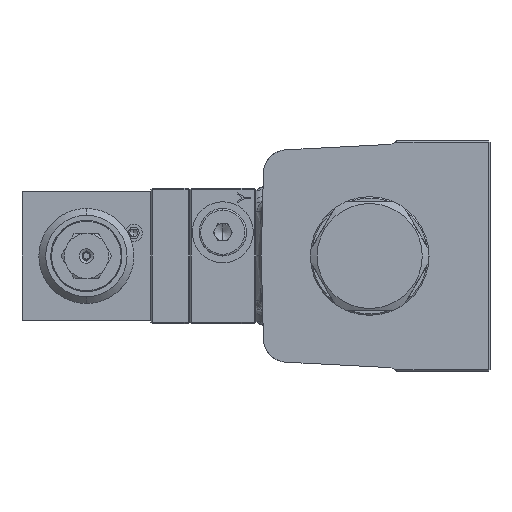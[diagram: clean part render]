
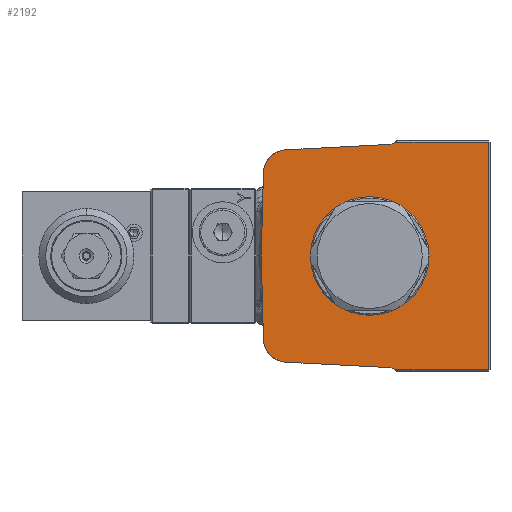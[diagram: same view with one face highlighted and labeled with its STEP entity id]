
A CAD part, left-side view. The second image highlights one B-rep face of the part: STEP entity #2192.
In plain terms, the highlighted planar face has unit normal (-1, 0, 0).
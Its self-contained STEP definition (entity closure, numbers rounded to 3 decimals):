
#162 = DIRECTION ( 'NONE',  ( 0., -0.999, -0.052 ) ) ;
#719 = CIRCLE ( 'NONE', #55664, 16. ) ;
#1984 = CARTESIAN_POINT ( 'NONE',  ( -46.6, 24.726, -31.337 ) ) ;
#2192 = ADVANCED_FACE ( 'NONE', ( #13976, #24550 ), #12619, .T. ) ;
#3393 = VECTOR ( 'NONE', #17945, 1000. ) ;
#3428 = CARTESIAN_POINT ( 'NONE',  ( -46.6, -7.444, 33.5 ) ) ;
#3738 = CIRCLE ( 'NONE', #30376, 7. ) ;
#3821 = VERTEX_POINT ( 'NONE', #3428 ) ;
#4105 = EDGE_CURVE ( 'NONE', #84405, #92950, #6211, .T. ) ;
#4370 = EDGE_CURVE ( 'NONE', #25922, #23741, #3738, .T. ) ;
#4702 = DIRECTION ( 'NONE',  ( -1., 0., 0. ) ) ;
#4703 = ORIENTED_EDGE ( 'NONE', *, *, #81297, .T. ) ;
#6211 = LINE ( 'NONE', #94565, #68467 ) ;
#7075 = CARTESIAN_POINT ( 'NONE',  ( -46.6, 31.358, 24.53 ) ) ;
#8248 = ORIENTED_EDGE ( 'NONE', *, *, #82497, .T. ) ;
#8603 = EDGE_CURVE ( 'NONE', #3821, #46115, #78114, .T. ) ;
#9000 = VECTOR ( 'NONE', #84197, 1000. ) ;
#10334 = CARTESIAN_POINT ( 'NONE',  ( -46.6, 31.978, -0.837 ) ) ;
#10485 = VERTEX_POINT ( 'NONE', #20733 ) ;
#10821 = CIRCLE ( 'NONE', #59866, 3. ) ;
#11976 = LINE ( 'NONE', #75063, #20207 ) ;
#12619 = PLANE ( 'NONE',  #45693 ) ;
#13046 = EDGE_LOOP ( 'NONE', ( #8248, #36009, #63451, #90885, #85467, #79858, #96741, #51884, #4703, #22587, #29799 ) ) ;
#13291 = CARTESIAN_POINT ( 'NONE',  ( -46.6, -5.85, -32.94 ) ) ;
#13976 = FACE_OUTER_BOUND ( 'NONE', #13046, .T. ) ;
#14640 = VERTEX_POINT ( 'NONE', #81256 ) ;
#17444 = AXIS2_PLACEMENT_3D ( 'NONE', #17909, #76946, #40502 ) ;
#17909 = CARTESIAN_POINT ( 'NONE',  ( -46.6, 24.36, 24.347 ) ) ;
#17945 = DIRECTION ( 'NONE',  ( 0., -0.026, -1. ) ) ;
#19871 = VECTOR ( 'NONE', #89886, 1000. ) ;
#19936 = DIRECTION ( 'NONE',  ( -1., 0., 0. ) ) ;
#20207 = VECTOR ( 'NONE', #162, 1000. ) ;
#20630 = CARTESIAN_POINT ( 'NONE',  ( -46.6, 24.726, 31.337 ) ) ;
#20733 = CARTESIAN_POINT ( 'NONE',  ( -46.6, 32., 0. ) ) ;
#21582 = EDGE_CURVE ( 'NONE', #72829, #14640, #719, .T. ) ;
#22195 = DIRECTION ( 'NONE',  ( 0., 1., 0. ) ) ;
#22572 = DIRECTION ( 'NONE',  ( 0., 0., 1. ) ) ;
#22587 = ORIENTED_EDGE ( 'NONE', *, *, #4370, .F. ) ;
#22590 = CARTESIAN_POINT ( 'NONE',  ( -46.6, -5.85, 32.94 ) ) ;
#23698 = LINE ( 'NONE', #67064, #36586 ) ;
#23741 = VERTEX_POINT ( 'NONE', #70139 ) ;
#24550 = FACE_BOUND ( 'NONE', #39076, .T. ) ;
#25922 = VERTEX_POINT ( 'NONE', #1984 ) ;
#28321 = AXIS2_PLACEMENT_3D ( 'NONE', #75001, #37302, #60214 ) ;
#29012 = DIRECTION ( 'NONE',  ( 0., 0., 1. ) ) ;
#29799 = ORIENTED_EDGE ( 'NONE', *, *, #82635, .T. ) ;
#30376 = AXIS2_PLACEMENT_3D ( 'NONE', #44525, #96644, #22572 ) ;
#32928 = EDGE_CURVE ( 'NONE', #86592, #84405, #73622, .T. ) ;
#34840 = CIRCLE ( 'NONE', #17444, 7. ) ;
#36009 = ORIENTED_EDGE ( 'NONE', *, *, #32928, .T. ) ;
#36366 = EDGE_CURVE ( 'NONE', #85317, #79113, #34840, .T. ) ;
#36586 = VECTOR ( 'NONE', #22195, 1000. ) ;
#37302 = DIRECTION ( 'NONE',  ( -1., 0., 0. ) ) ;
#39076 = EDGE_LOOP ( 'NONE', ( #60567, #69460 ) ) ;
#39675 = CARTESIAN_POINT ( 'NONE',  ( -46.6, -7.444, -33.5 ) ) ;
#39771 = LINE ( 'NONE', #10334, #3393 ) ;
#40502 = DIRECTION ( 'NONE',  ( 0., 0., 1. ) ) ;
#43854 = DIRECTION ( 'NONE',  ( 0., -1., 0. ) ) ;
#44525 = CARTESIAN_POINT ( 'NONE',  ( -46.6, 24.36, -24.347 ) ) ;
#45693 = AXIS2_PLACEMENT_3D ( 'NONE', #87083, #4702, #64753 ) ;
#46115 = VERTEX_POINT ( 'NONE', #22590 ) ;
#46504 = AXIS2_PLACEMENT_3D ( 'NONE', #89209, #51763, #51440 ) ;
#48399 = EDGE_CURVE ( 'NONE', #92950, #3821, #23698, .T. ) ;
#50013 = DIRECTION ( 'NONE',  ( 1., 0., 0. ) ) ;
#51440 = DIRECTION ( 'NONE',  ( 0., 0., 1. ) ) ;
#51763 = DIRECTION ( 'NONE',  ( 1., 0., 0. ) ) ;
#51884 = ORIENTED_EDGE ( 'NONE', *, *, #57241, .F. ) ;
#55513 = DIRECTION ( 'NONE',  ( 0., -0.026, 1. ) ) ;
#55664 = AXIS2_PLACEMENT_3D ( 'NONE', #58865, #19936, #43854 ) ;
#57241 = EDGE_CURVE ( 'NONE', #10485, #79113, #57898, .T. ) ;
#57898 = LINE ( 'NONE', #93929, #80235 ) ;
#58309 = VERTEX_POINT ( 'NONE', #13291 ) ;
#58670 = CARTESIAN_POINT ( 'NONE',  ( -46.6, 1.706, 32.544 ) ) ;
#58865 = CARTESIAN_POINT ( 'NONE',  ( -46.6, 0., 0. ) ) ;
#59866 = AXIS2_PLACEMENT_3D ( 'NONE', #64443, #50013, #94610 ) ;
#60214 = DIRECTION ( 'NONE',  ( 0., -1., 0. ) ) ;
#60283 = EDGE_CURVE ( 'NONE', #85317, #46115, #84376, .T. ) ;
#60567 = ORIENTED_EDGE ( 'NONE', *, *, #21582, .F. ) ;
#63451 = ORIENTED_EDGE ( 'NONE', *, *, #4105, .T. ) ;
#64443 = CARTESIAN_POINT ( 'NONE',  ( -46.6, -5.693, -35.936 ) ) ;
#64753 = DIRECTION ( 'NONE',  ( 0., 0., 1. ) ) ;
#67064 = CARTESIAN_POINT ( 'NONE',  ( -46.6, -35.5, 33.5 ) ) ;
#68467 = VECTOR ( 'NONE', #29012, 1000. ) ;
#69087 = CARTESIAN_POINT ( 'NONE',  ( -46.6, -35., -33.5 ) ) ;
#69460 = ORIENTED_EDGE ( 'NONE', *, *, #70955, .F. ) ;
#70139 = CARTESIAN_POINT ( 'NONE',  ( -46.6, 31.358, -24.53 ) ) ;
#70955 = EDGE_CURVE ( 'NONE', #14640, #72829, #80519, .T. ) ;
#71530 = CARTESIAN_POINT ( 'NONE',  ( -46.6, -16., 0. ) ) ;
#72829 = VERTEX_POINT ( 'NONE', #71530 ) ;
#73622 = LINE ( 'NONE', #76670, #9000 ) ;
#75001 = CARTESIAN_POINT ( 'NONE',  ( -46.6, 0., 0. ) ) ;
#75063 = CARTESIAN_POINT ( 'NONE',  ( -46.6, 1.706, -32.544 ) ) ;
#76670 = CARTESIAN_POINT ( 'NONE',  ( -46.6, -35.5, -33.5 ) ) ;
#76946 = DIRECTION ( 'NONE',  ( -1., 0., 0. ) ) ;
#78114 = CIRCLE ( 'NONE', #46504, 3. ) ;
#79113 = VERTEX_POINT ( 'NONE', #7075 ) ;
#79858 = ORIENTED_EDGE ( 'NONE', *, *, #60283, .F. ) ;
#80235 = VECTOR ( 'NONE', #55513, 1000. ) ;
#80519 = CIRCLE ( 'NONE', #28321, 16. ) ;
#81256 = CARTESIAN_POINT ( 'NONE',  ( -46.6, 16., 0. ) ) ;
#81297 = EDGE_CURVE ( 'NONE', #10485, #23741, #39771, .T. ) ;
#82497 = EDGE_CURVE ( 'NONE', #58309, #86592, #10821, .T. ) ;
#82635 = EDGE_CURVE ( 'NONE', #25922, #58309, #11976, .T. ) ;
#84197 = DIRECTION ( 'NONE',  ( 0., -1., 0. ) ) ;
#84336 = CARTESIAN_POINT ( 'NONE',  ( -46.6, -35., 33.5 ) ) ;
#84376 = LINE ( 'NONE', #58670, #19871 ) ;
#84405 = VERTEX_POINT ( 'NONE', #69087 ) ;
#85317 = VERTEX_POINT ( 'NONE', #20630 ) ;
#85467 = ORIENTED_EDGE ( 'NONE', *, *, #8603, .T. ) ;
#86592 = VERTEX_POINT ( 'NONE', #39675 ) ;
#87083 = CARTESIAN_POINT ( 'NONE',  ( -46.6, -35.5, -34. ) ) ;
#89209 = CARTESIAN_POINT ( 'NONE',  ( -46.6, -5.693, 35.936 ) ) ;
#89886 = DIRECTION ( 'NONE',  ( 0., -0.999, 0.052 ) ) ;
#90885 = ORIENTED_EDGE ( 'NONE', *, *, #48399, .T. ) ;
#92950 = VERTEX_POINT ( 'NONE', #84336 ) ;
#93929 = CARTESIAN_POINT ( 'NONE',  ( -46.6, 31.978, 0.837 ) ) ;
#94565 = CARTESIAN_POINT ( 'NONE',  ( -46.6, -35., -34. ) ) ;
#94610 = DIRECTION ( 'NONE',  ( 0., 0., 1. ) ) ;
#96644 = DIRECTION ( 'NONE',  ( 1., 0., 0. ) ) ;
#96741 = ORIENTED_EDGE ( 'NONE', *, *, #36366, .T. ) ;
